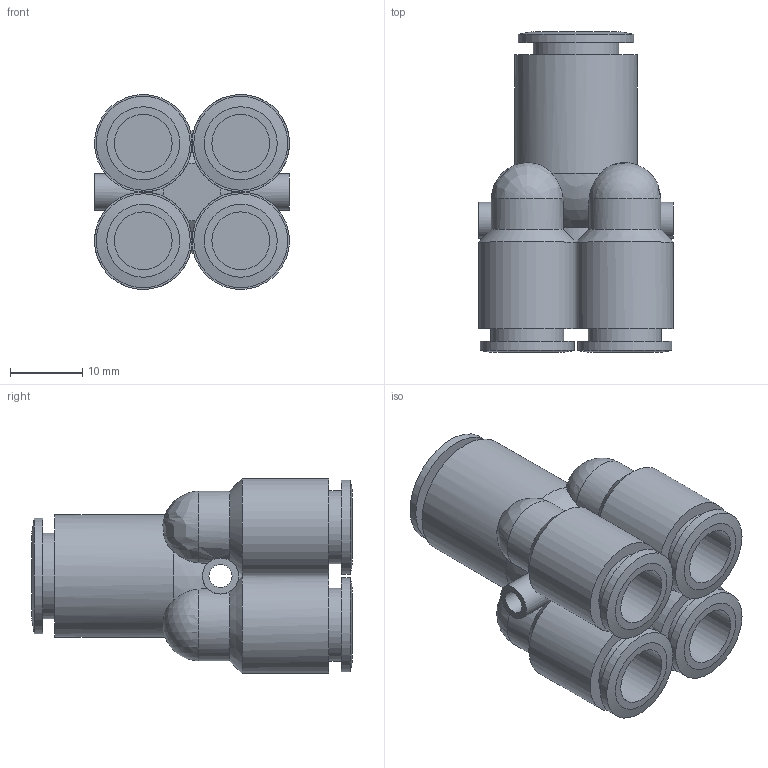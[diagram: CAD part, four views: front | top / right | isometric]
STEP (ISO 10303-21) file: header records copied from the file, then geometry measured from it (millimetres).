
FILE_DESCRIPTION((''),'2;1');
FILE_NAME('C:\Documents and Settings\rivolro1\Documenti\copia di Raccordi\PLASTICA\T24XXXX\T240810.stp','2007-11-02T15:05:38',('Rivolro1'),(''),'Autodesk Inventor 2008','Autodesk Inventor 2008','');
FILE_SCHEMA(('AUTOMOTIVE_DESIGN { 1 0 10303 214 1 1 1 1 }'));
Length unit declared in the file: millimetre
Products named in the file (1): T240810
Bounding box: 27 x 44.4 x 27 mm (x, y, z)
Volume: 12322.8 mm3; surface area: 8638 mm2
Topology: 1 solids, 1 shells, 74 faces, 198 edges, 119 vertices
Faces by surface type: bspline 27, cylinder 21, plane 15, sphere 6, cone 5
Full cylindrical faces by diameter (mm): 5 x2, 8 x3, 10 x1, 10.1 x2, 11.9 x1, 13 x2, 16 x1, 17 x1
Entity records: 2982 total; most frequent: CARTESIAN_POINT 1391, DIRECTION 300, ORIENTED_EDGE 296, EDGE_CURVE 148, AXIS2_PLACEMENT_3D 142, EDGE_LOOP 118, VERTEX_POINT 106, CIRCLE 96
